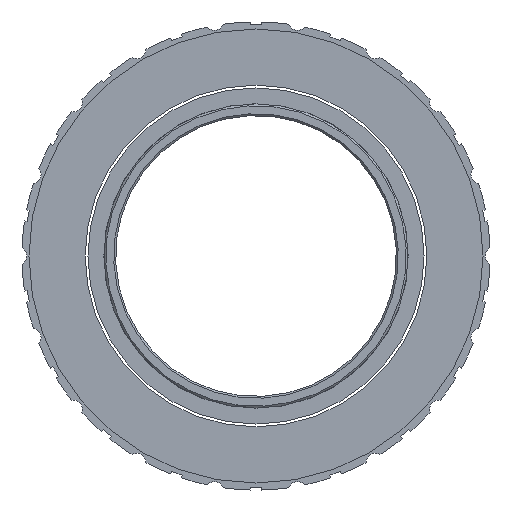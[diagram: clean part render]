
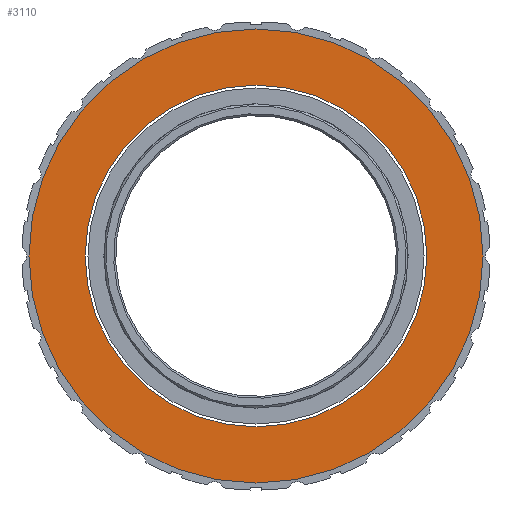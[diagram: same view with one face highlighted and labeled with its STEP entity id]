
A CAD part, left-side view. The second image highlights one B-rep face of the part: STEP entity #3110.
In plain terms, the highlighted planar face has unit normal (-1, 0, 0).
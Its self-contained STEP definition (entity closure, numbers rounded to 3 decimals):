
#41 = CIRCLE ( 'NONE', #639, 24.25 ) ;
#227 = VERTEX_POINT ( 'NONE', #3286 ) ;
#244 = CARTESIAN_POINT ( 'NONE',  ( -9.6, 0., 0. ) ) ;
#344 = AXIS2_PLACEMENT_3D ( 'NONE', #883, #2674, #1614 ) ;
#433 = DIRECTION ( 'NONE',  ( -1., 0., 0. ) ) ;
#639 = AXIS2_PLACEMENT_3D ( 'NONE', #1068, #1194, #849 ) ;
#729 = EDGE_CURVE ( 'NONE', #3694, #938, #4101, .T. ) ;
#849 = DIRECTION ( 'NONE',  ( 0., 0., 1. ) ) ;
#883 = CARTESIAN_POINT ( 'NONE',  ( -9.6, 0., 0. ) ) ;
#938 = VERTEX_POINT ( 'NONE', #3885 ) ;
#999 = EDGE_CURVE ( 'NONE', #227, #3582, #41, .T. ) ;
#1018 = CIRCLE ( 'NONE', #3663, 18.25 ) ;
#1030 = EDGE_LOOP ( 'NONE', ( #1064, #2484 ) ) ;
#1033 = FACE_OUTER_BOUND ( 'NONE', #1472, .T. ) ;
#1064 = ORIENTED_EDGE ( 'NONE', *, *, #4266, .F. ) ;
#1068 = CARTESIAN_POINT ( 'NONE',  ( -9.6, 0., 0. ) ) ;
#1194 = DIRECTION ( 'NONE',  ( -1., 0., 0. ) ) ;
#1472 = EDGE_LOOP ( 'NONE', ( #2680, #3840 ) ) ;
#1614 = DIRECTION ( 'NONE',  ( 0., 0., 1. ) ) ;
#1692 = CARTESIAN_POINT ( 'NONE',  ( -9.6, 0., -18.25 ) ) ;
#1837 = DIRECTION ( 'NONE',  ( 0., 0., 1. ) ) ;
#2030 = CIRCLE ( 'NONE', #2249, 24.25 ) ;
#2249 = AXIS2_PLACEMENT_3D ( 'NONE', #3918, #433, #1837 ) ;
#2484 = ORIENTED_EDGE ( 'NONE', *, *, #729, .F. ) ;
#2674 = DIRECTION ( 'NONE',  ( -1., 0., 0. ) ) ;
#2680 = ORIENTED_EDGE ( 'NONE', *, *, #999, .T. ) ;
#2714 = DIRECTION ( 'NONE',  ( -1., 0., 0. ) ) ;
#2822 = EDGE_CURVE ( 'NONE', #3582, #227, #2030, .T. ) ;
#3110 = ADVANCED_FACE ( 'NONE', ( #4192, #1033 ), #3403, .T. ) ;
#3199 = CARTESIAN_POINT ( 'NONE',  ( -9.6, 0., 0. ) ) ;
#3286 = CARTESIAN_POINT ( 'NONE',  ( -9.6, 0., -24.25 ) ) ;
#3397 = CARTESIAN_POINT ( 'NONE',  ( -9.6, 0., 24.25 ) ) ;
#3403 = PLANE ( 'NONE',  #4483 ) ;
#3424 = DIRECTION ( 'NONE',  ( 0., 0., 1. ) ) ;
#3582 = VERTEX_POINT ( 'NONE', #3397 ) ;
#3600 = DIRECTION ( 'NONE',  ( 0., 0., 1. ) ) ;
#3663 = AXIS2_PLACEMENT_3D ( 'NONE', #3199, #3970, #3600 ) ;
#3694 = VERTEX_POINT ( 'NONE', #1692 ) ;
#3840 = ORIENTED_EDGE ( 'NONE', *, *, #2822, .T. ) ;
#3885 = CARTESIAN_POINT ( 'NONE',  ( -9.6, 0., 18.25 ) ) ;
#3918 = CARTESIAN_POINT ( 'NONE',  ( -9.6, 0., 0. ) ) ;
#3970 = DIRECTION ( 'NONE',  ( -1., 0., 0. ) ) ;
#4101 = CIRCLE ( 'NONE', #344, 18.25 ) ;
#4192 = FACE_BOUND ( 'NONE', #1030, .T. ) ;
#4266 = EDGE_CURVE ( 'NONE', #938, #3694, #1018, .T. ) ;
#4483 = AXIS2_PLACEMENT_3D ( 'NONE', #244, #2714, #3424 ) ;
